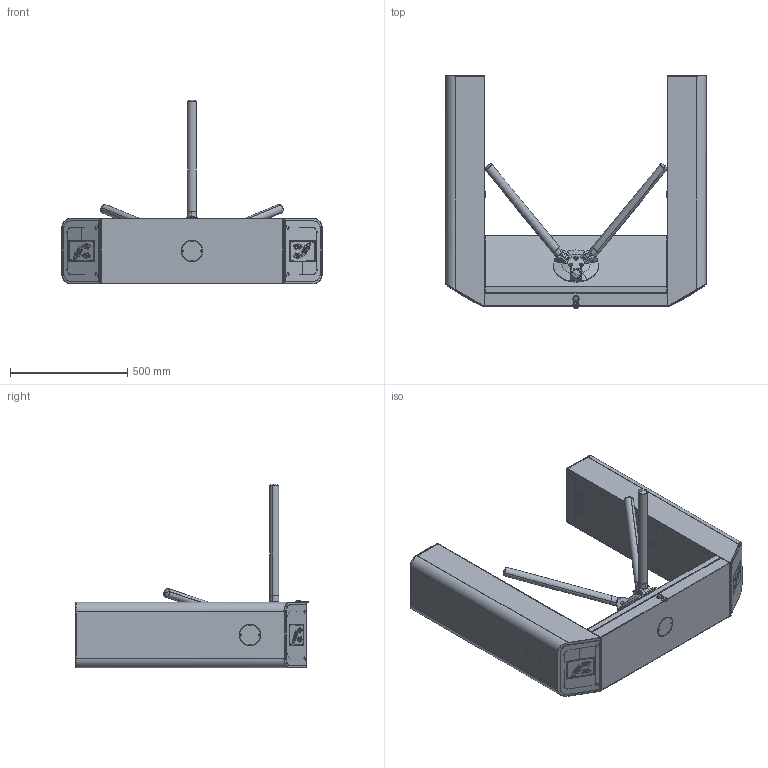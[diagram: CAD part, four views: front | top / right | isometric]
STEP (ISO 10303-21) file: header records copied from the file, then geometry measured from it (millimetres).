
FILE_DESCRIPTION((''),'2;1');
FILE_NAME('TS2000AA_ASM_6_ASM','2021-01-22T',('Administrator'),(''),'PRO/ENGINEER BY PARAMETRIC TECHNOLOGY CORPORATION, 2012090','PRO/ENGINEER BY PARAMETRIC TECHNOLOGY CORPORATION, 2012090','');
FILE_SCHEMA(('CONFIG_CONTROL_DESIGN'));
Products named in the file (38): TS2000-31_AA_5; TS2000-32_AA_2; PRODUCT_5015_111_AA_2; PRODUCT_20577_111_AA_2; PRODUCT_69746_111_AA_2; PRODUCT_54271_111_AA_2; PRODUCT_85224_111_AA_ASM_2_ASM; PRODUCT_38779_111_AA_2; G-00_111_AA_ASM_2_ASM; TS-DGJIXINAAA_111_AA_ASM_2_ASM; Y-0002AAAA_AA_ASM_6_ASM; TS2000-1_AA_ASM_7_ASM; TS2000-52_AA_2; TS2000-59_AA_1; ASCX_AA_1; TS1000-A23_AA_1; TS2000-5_AA_ASM_1_ASM; TS2200-DMB__AA_1; TS2000-3_AA_ASM_1_ASM; TS2000-61_AA_2; TS2000-62_AA_1; TS2000-63_AA_1; TS2000-7_AA_ASM_1_ASM; TS2000-75_AA_1; TS2000-66_AA_3; MANIFOLD_SOLID_BREP_221807; MANIFOLD_SOLID_BREP_221896; MANIFOLD_SOLID_BREP_221985; MANIFOLD_SOLID_BREP_222074; MANIFOLD_SOLID_BREP_222163; TS2000-69_AA_1_ASM; LIZHUPEIJIAN_AA_2; TS2200-A15888DTMBBB__AA_1; TS2000-6_AA_ASM_1_ASM; TS2000-100_AA_1; LZ-CB-B_AA_2; TS2000-14_AA_ASM_1_ASM; TS2000AA_ASM_6_ASM
Assembly tree (50 placements, depth 7):
  TS2000AA_ASM_6_ASM
    TS2000-1_AA_ASM_7_ASM
      TS2000-31_AA_5
      TS2000-32_AA_2
      Y-0002AAAA_AA_ASM_6_ASM
        TS-DGJIXINAAA_111_AA_ASM_2_ASM
          G-00_111_AA_ASM_2_ASM
            PRODUCT_5015_111_AA_2  x3
            PRODUCT_20577_111_AA_2
            PRODUCT_85224_111_AA_ASM_2_ASM  x3
              PRODUCT_69746_111_AA_2
              PRODUCT_54271_111_AA_2
            PRODUCT_38779_111_AA_2
    TS2000-3_AA_ASM_1_ASM
      TS2000-52_AA_2
      TS2000-5_AA_ASM_1_ASM
        TS2000-59_AA_1
        ASCX_AA_1
        TS1000-A23_AA_1
      TS2200-DMB__AA_1
    TS2000-6_AA_ASM_1_ASM
      TS2000-61_AA_2
      TS2000-62_AA_1
      TS2000-7_AA_ASM_1_ASM
        TS2000-63_AA_1
        TS2000-5_AA_ASM_1_ASM
          TS2000-59_AA_1
          ASCX_AA_1
          TS1000-A23_AA_1
      TS2000-75_AA_1
      TS2000-66_AA_3
      TS2000-69_AA_1_ASM
        MANIFOLD_SOLID_BREP_221807
        MANIFOLD_SOLID_BREP_221896
        MANIFOLD_SOLID_BREP_221985
        MANIFOLD_SOLID_BREP_222074
        MANIFOLD_SOLID_BREP_222163
      LIZHUPEIJIAN_AA_2
      TS2200-DMB__AA_1
      TS2200-A15888DTMBBB__AA_1
    TS2000-14_AA_ASM_1_ASM
      TS2000-100_AA_1
      TS2000-62_AA_1
      TS2000-75_AA_1
      TS2000-7_AA_ASM_1_ASM
        TS2000-63_AA_1
        TS2000-5_AA_ASM_1_ASM
          TS2000-59_AA_1
          ASCX_AA_1
          TS1000-A23_AA_1
      TS2000-66_AA_3
      TS2000-69_AA_1_ASM
        MANIFOLD_SOLID_BREP_221807
        MANIFOLD_SOLID_BREP_221896
        MANIFOLD_SOLID_BREP_221985
        MANIFOLD_SOLID_BREP_222074
        MANIFOLD_SOLID_BREP_222163
      LZ-CB-B_AA_2
      TS2200-DMB__AA_1
      TS2200-A15888DTMBBB__AA_1
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Bounding box: 1110 x 996.9 x 783.53 mm (x, y, z)
Volume: 4701624.5 mm3; surface area: 6210660.5 mm2
Topology: 50 solids, 52 shells, 3374 faces, 9100 edges, 5941 vertices
Faces by surface type: plane 1940, cylinder 933, bspline 144, extrusion 124, cone 122, torus 93, sphere 12, revolution 6
Entity records: 73594 total; most frequent: CARTESIAN_POINT 18895, ORIENTED_EDGE 11324, DIRECTION 11177, EDGE_CURVE 5665, AXIS2_PLACEMENT_3D 3846, VERTEX_POINT 3631, VECTOR 3483, LINE 3437
